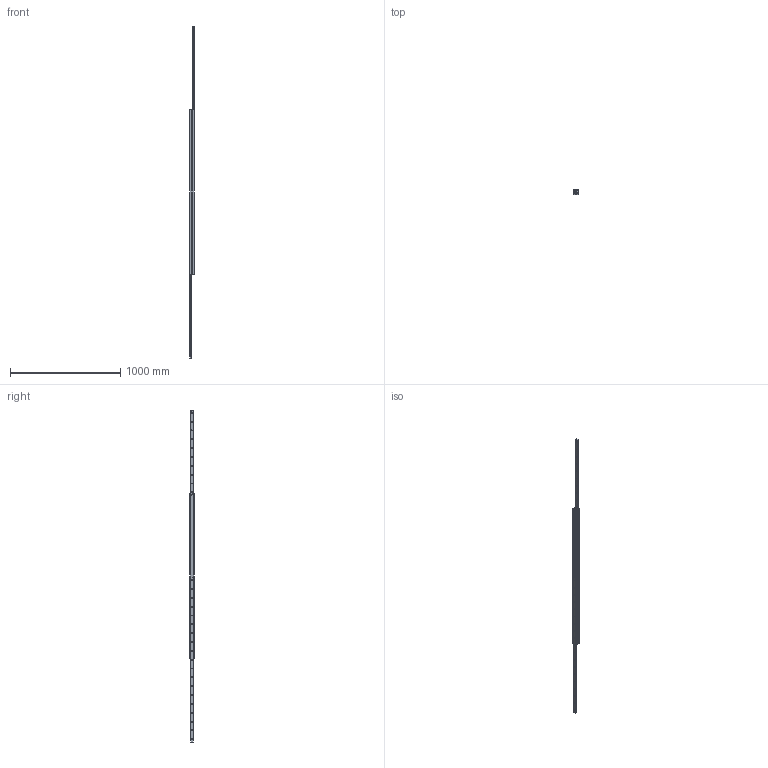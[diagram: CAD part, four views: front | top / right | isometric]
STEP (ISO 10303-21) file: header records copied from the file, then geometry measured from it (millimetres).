
FILE_DESCRIPTION( ( 'STEP AP214' ), '1' );
FILE_NAME( 'p:/temp/worker_84/temp/exporttempdir_3784_557_FUctZ/format_0/DEF43-14901516.stp', '2020-03-20T20:02:48', ( 'License CC BY-ND 4.0' ), ( 'CADENAS' ), ' ', 'PARTsolutions', ' ' );
FILE_SCHEMA( ( 'AUTOMOTIVE_DESIGN { 1 0 10303 214 1 1 1 1 }' ) );
Length unit declared in the file: millimetre
Products named in the file (4): DEF43-14901516; _43211490151612-gf; _4321149015161-ei; _43211490151611-gf
Assembly tree (4 placements, depth 2):
  DEF43-14901516
    _43211490151612-gf
    _4321149015161-ei  x2
    _43211490151611-gf
Bounding box: 44 x 43 x 3006 mm (x, y, z)
Volume: 1841672.5 mm3; surface area: 701629.7 mm2
Topology: 4 solids, 4 shells, 266 faces, 658 edges, 412 vertices
Faces by surface type: plane 102, cylinder 84, cone 80
Full cylindrical faces by diameter (mm): 4.134 x2, 6.647 x38, 7 x2
Entity records: 7768 total; most frequent: DIRECTION 1080, CARTESIAN_POINT 967, ORIENTED_EDGE 830, AXIS2_PLACEMENT_3D 442, EDGE_LOOP 420, EDGE_CURVE 415, VERTEX_POINT 329, FACE_OUTER_BOUND 258
